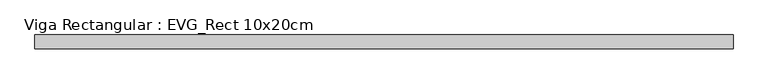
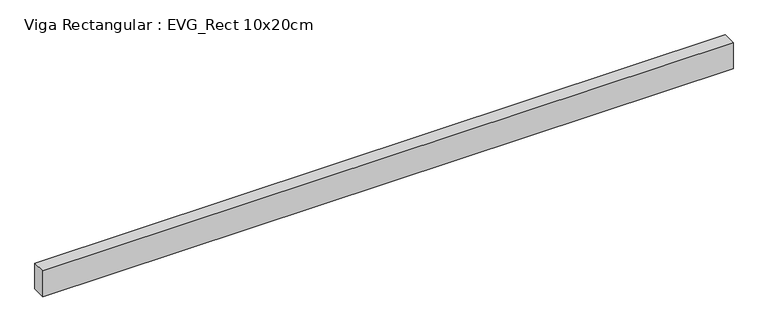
"""IFC4 building model written with IfcOpenShell, lengths in millimetres: beam geometry, Viga Rectangular : EVG_Rect 10x20cm."""

from ifc_helpers import new_model, si_unit, frame, origin, place, context, project, spatial, polyline, outline, extrude, source, transform, mapped, element, save


def viga_rectangular_evg_rect_10x20cm_1bd2aa7d(model_context):
    return source(origin(), model_context, "Body", "SweptSolid", [
        extrude(outline(polyline([(2525.0, 50.0), (2525.0, -50.0), (-2525.0, -50.0), (-2525.0, 50.0), (2525.0, 50.0)])), frame((0.0, 0.0, -200.0), z_axis=(0.0, 0.0, 1.0), x_axis=(1.0, 0.0, 0.0)), (0.0, 0.0, 1.0), 200.0),
    ])


if __name__ == "__main__":
    model = new_model("IFC4")
    model_context = context("Model", 3, world=origin())
    ifc_project = project(units=[si_unit("LENGTHUNIT", "METRE", prefix="MILLI")], contexts=[model_context])
    site = spatial("IfcSite", under=ifc_project)
    building = spatial("IfcBuilding", under=site)
    placement = place(None, origin())
    viga_rectangular_evg_rect_10x20cm_shape = viga_rectangular_evg_rect_10x20cm_1bd2aa7d(model_context)
    element("IfcBeam", 1, ObjectType="Viga Rectangular : EVG_Rect 10x20cm", at=placement, inside=building, context=model_context, shape_type="MappedRepresentation", body=[
        mapped(viga_rectangular_evg_rect_10x20cm_shape, transform((0.0, 0.0, 0.0), x_axis=(1.0, 0.0, 0.0), y_axis=(0.0, 1.0, 0.0), z_axis=(0.0, 0.0, 1.0))),
    ])
    save(model, "model.ifc")
